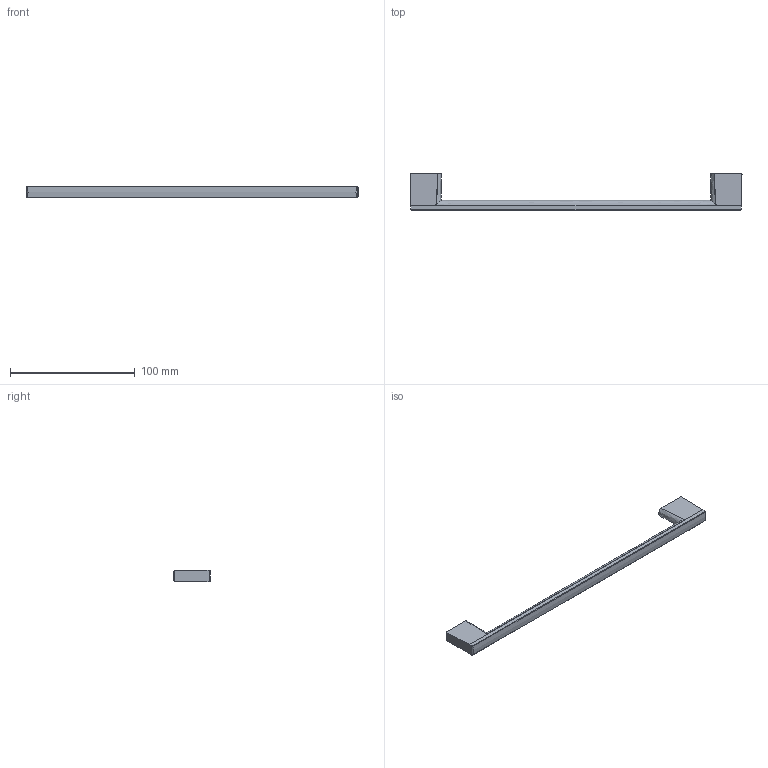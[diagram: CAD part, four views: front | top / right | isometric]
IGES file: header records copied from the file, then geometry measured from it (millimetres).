
Start section: Data from Parasolid IGES Translator 20.0.26, Copyright(c) 2006 Siemens P LM Software. All Rights Reserved.
Global section: file name: 43506.igs; native system: By Siemens PLM Incorporated; preprocessor: XPlus GENERIC/IGES 20.0.26; author: Noname; organization: Noname; date: 20211115.184530; units: millimetre
Bounding box: 266.37 x 29.6 x 9 mm (x, y, z)
Surface area: 11287.6 mm2 (no closed solid volume)
Topology: 0 solids, 0 shells, 29 faces, 142 edges, 136 vertices
Faces by surface type: revolution 16, extrusion 13
